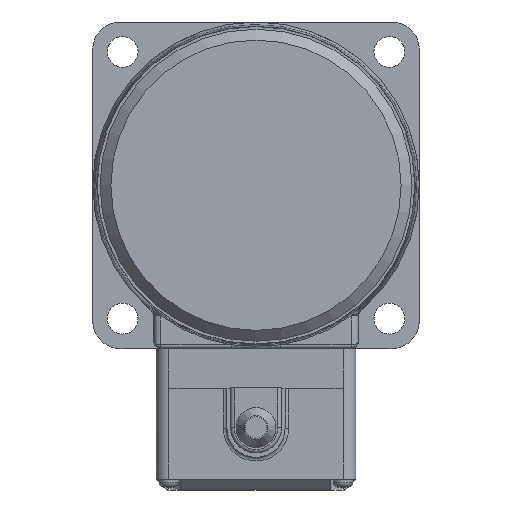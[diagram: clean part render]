
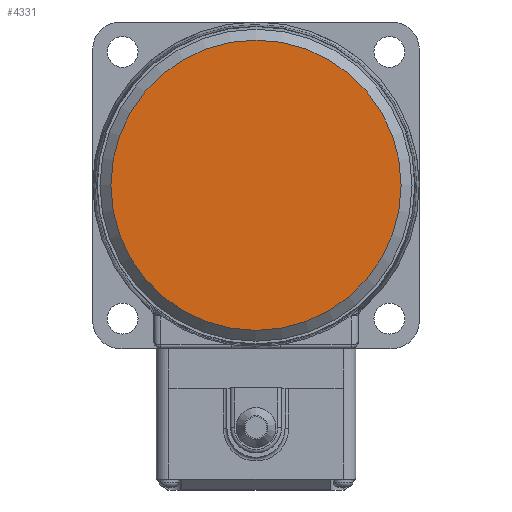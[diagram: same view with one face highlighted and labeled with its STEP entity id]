
A CAD part, left-side view. The second image highlights one B-rep face of the part: STEP entity #4331.
In plain terms, the highlighted planar face has unit normal (-1, 0, 0).
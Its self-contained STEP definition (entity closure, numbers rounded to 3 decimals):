
#190=PLANE('',#4748);
#1054=FACE_OUTER_BOUND('',#1323,.T.);
#1323=EDGE_LOOP('',(#3645));
#1574=CIRCLE('',#4749,40.);
#2019=VERTEX_POINT('',#7765);
#2582=EDGE_CURVE('',#2019,#2019,#1574,.T.);
#3645=ORIENTED_EDGE('',*,*,#2582,.F.);
#4331=ADVANCED_FACE('',(#1054),#190,.T.);
#4748=AXIS2_PLACEMENT_3D('',#7764,#5750,#5751);
#4749=AXIS2_PLACEMENT_3D('',#7766,#5752,#5753);
#5750=DIRECTION('center_axis',(-1.,0.,0.));
#5751=DIRECTION('ref_axis',(0.,0.,1.));
#5752=DIRECTION('center_axis',(1.,0.,0.));
#5753=DIRECTION('ref_axis',(0.,1.,0.));
#7764=CARTESIAN_POINT('Origin',(0.,20.,
0.));
#7765=CARTESIAN_POINT('',(0.,40.,0.));
#7766=CARTESIAN_POINT('Origin',(0.,0.,
0.));
